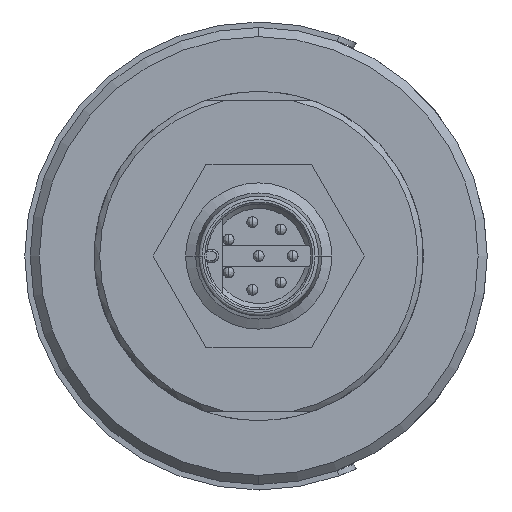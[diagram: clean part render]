
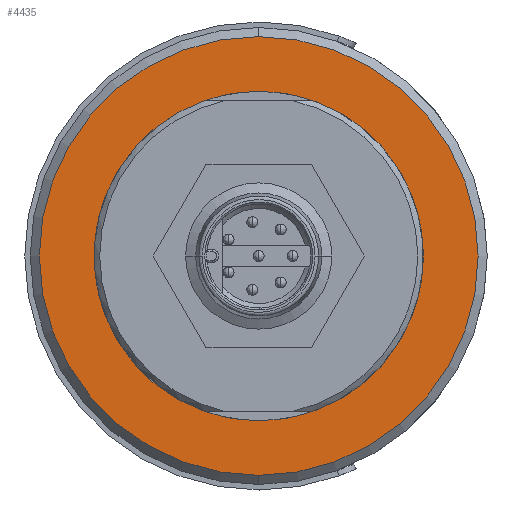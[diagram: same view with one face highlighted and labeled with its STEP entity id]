
A CAD part, left-side view. The second image highlights one B-rep face of the part: STEP entity #4435.
In plain terms, the highlighted planar face has unit normal (-1, 0, 0).
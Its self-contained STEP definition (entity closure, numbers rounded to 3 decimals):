
#275 = ORIENTED_EDGE ( 'NONE', *, *, #2644, .T. ) ;
#395 = VERTEX_POINT ( 'NONE', #4734 ) ;
#509 = DIRECTION ( 'NONE',  ( 0., 0., 1. ) ) ;
#561 = DIRECTION ( 'NONE',  ( 1., 0., 0. ) ) ;
#1058 = AXIS2_PLACEMENT_3D ( 'NONE', #2346, #2755, #1481 ) ;
#1108 = CIRCLE ( 'NONE', #5874, 9. ) ;
#1246 = CIRCLE ( 'NONE', #4588, 9. ) ;
#1256 = AXIS2_PLACEMENT_3D ( 'NONE', #3616, #3193, #4092 ) ;
#1421 = ORIENTED_EDGE ( 'NONE', *, *, #1975, .T. ) ;
#1481 = DIRECTION ( 'NONE',  ( 0., 0., 1. ) ) ;
#1681 = EDGE_CURVE ( 'NONE', #3930, #2836, #1915, .T. ) ;
#1915 = CIRCLE ( 'NONE', #1058, 12. ) ;
#1975 = EDGE_CURVE ( 'NONE', #395, #4605, #1246, .T. ) ;
#2099 = EDGE_LOOP ( 'NONE', ( #275, #3555 ) ) ;
#2304 = FACE_OUTER_BOUND ( 'NONE', #2099, .T. ) ;
#2346 = CARTESIAN_POINT ( 'NONE',  ( -31.9, 0., 0. ) ) ;
#2644 = EDGE_CURVE ( 'NONE', #2836, #3930, #4117, .T. ) ;
#2755 = DIRECTION ( 'NONE',  ( -1., 0., 0. ) ) ;
#2763 = CARTESIAN_POINT ( 'NONE',  ( -31.9, 0., 0. ) ) ;
#2836 = VERTEX_POINT ( 'NONE', #3473 ) ;
#3116 = EDGE_CURVE ( 'NONE', #4605, #395, #1108, .T. ) ;
#3193 = DIRECTION ( 'NONE',  ( -1., 0., 0. ) ) ;
#3282 = DIRECTION ( 'NONE',  ( 1., 0., 0. ) ) ;
#3284 = CARTESIAN_POINT ( 'NONE',  ( -31.9, 0., 0. ) ) ;
#3353 = CARTESIAN_POINT ( 'NONE',  ( -31.9, 0., -9. ) ) ;
#3473 = CARTESIAN_POINT ( 'NONE',  ( -31.9, 0., -12. ) ) ;
#3555 = ORIENTED_EDGE ( 'NONE', *, *, #1681, .T. ) ;
#3616 = CARTESIAN_POINT ( 'NONE',  ( -31.9, 0., 0. ) ) ;
#3849 = FACE_BOUND ( 'NONE', #5792, .T. ) ;
#3930 = VERTEX_POINT ( 'NONE', #4723 ) ;
#3952 = AXIS2_PLACEMENT_3D ( 'NONE', #4615, #4157, #509 ) ;
#4092 = DIRECTION ( 'NONE',  ( 0., 0., 1. ) ) ;
#4117 = CIRCLE ( 'NONE', #1256, 12. ) ;
#4157 = DIRECTION ( 'NONE',  ( -1., 0., 0. ) ) ;
#4435 = ADVANCED_FACE ( 'NONE', ( #2304, #3849 ), #5201, .T. ) ;
#4588 = AXIS2_PLACEMENT_3D ( 'NONE', #2763, #3282, #5504 ) ;
#4604 = DIRECTION ( 'NONE',  ( 0., 0., -1. ) ) ;
#4605 = VERTEX_POINT ( 'NONE', #3353 ) ;
#4615 = CARTESIAN_POINT ( 'NONE',  ( -31.9, 0., -9. ) ) ;
#4723 = CARTESIAN_POINT ( 'NONE',  ( -31.9, 0., 12. ) ) ;
#4734 = CARTESIAN_POINT ( 'NONE',  ( -31.9, 0., 9. ) ) ;
#4936 = ORIENTED_EDGE ( 'NONE', *, *, #3116, .T. ) ;
#5201 = PLANE ( 'NONE',  #3952 ) ;
#5504 = DIRECTION ( 'NONE',  ( 0., 0., -1. ) ) ;
#5792 = EDGE_LOOP ( 'NONE', ( #4936, #1421 ) ) ;
#5874 = AXIS2_PLACEMENT_3D ( 'NONE', #3284, #561, #4604 ) ;
